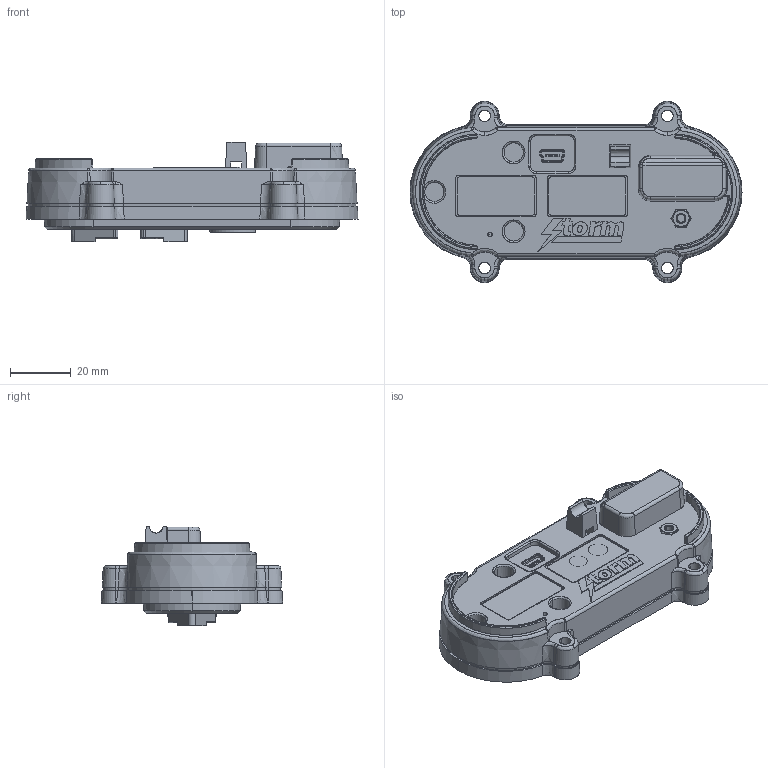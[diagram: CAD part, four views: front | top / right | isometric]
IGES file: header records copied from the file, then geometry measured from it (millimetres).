
Start section: SolidWorks IGES file using analytic representation for surfaces
Global section: file name: C:\Users\anthonyc\Desktop\AT02-43001~1.IGS; native system: SolidWorks 2017; preprocessor: SolidWorks 2017; author: anthonyc; date: 180207.125244; units: millimetre
Bounding box: 109 x 59.5 x 32.7 mm (x, y, z)
Surface area: 26231.7 mm2 (no closed solid volume)
Topology: 0 solids, 0 shells, 1193 faces, 12656 edges, 12610 vertices
Faces by surface type: bspline 694, revolution 499
